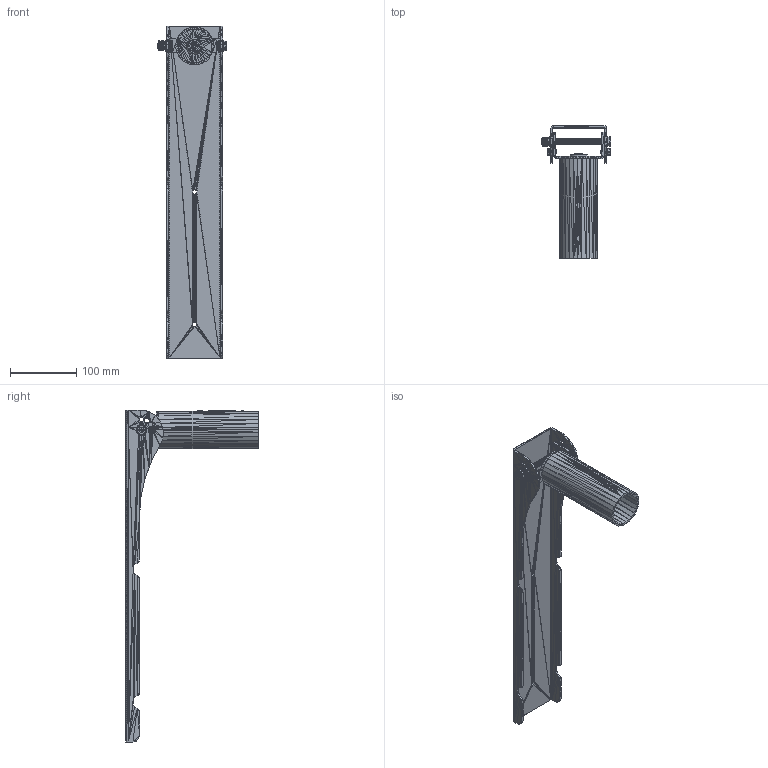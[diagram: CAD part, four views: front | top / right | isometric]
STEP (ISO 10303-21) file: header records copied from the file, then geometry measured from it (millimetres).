
FILE_DESCRIPTION((''),'2;1');
FILE_NAME('051091', '2026-02-09T14:38:26', (''), (''), 'ImageToStl.com STEP Converter','', '');
FILE_SCHEMA(('AUTOMOTIVE_DESIGN_CC2'));
Length unit declared in the file: metre
Products named in the file (1): product0
Bounding box: 104.7 x 200 x 500 mm (x, y, z)
Surface area: 200528 mm2 (no closed solid volume)
Topology: 0 solids, 9500 shells, 9500 faces, 28500 edges, 4730 vertices
Faces by surface type: plane 9500
Entity records: 218488 total; most frequent: DIRECTION 47502, ORIENTED_EDGE 28500, EDGE_CURVE 28500, LINE 28500, VECTOR 28500, AXIS2_PLACEMENT_3D 9501, FACE_SURFACE 9500, PLANE 9500
